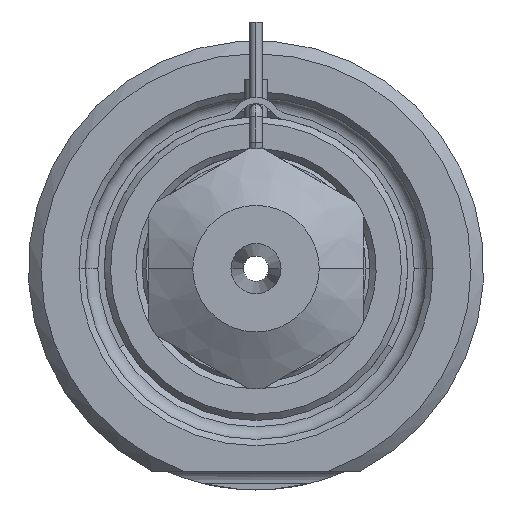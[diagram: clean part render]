
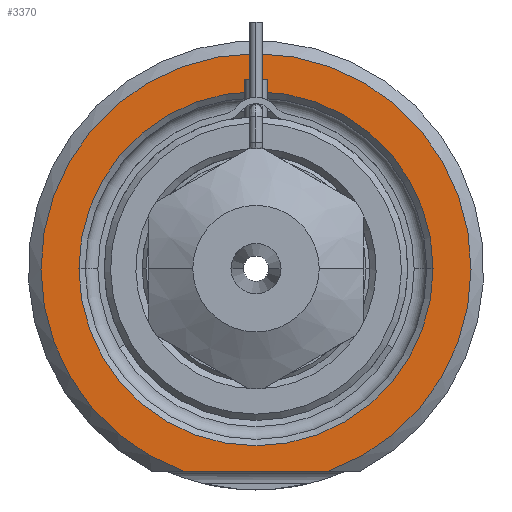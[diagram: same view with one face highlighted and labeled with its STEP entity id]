
A CAD part, front view. The second image highlights one B-rep face of the part: STEP entity #3370.
In plain terms, the highlighted planar face has unit normal (0, -1, 0).
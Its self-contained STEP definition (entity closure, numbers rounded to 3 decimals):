
#678=DIRECTION('',(1.,0.,0.));
#679=VECTOR('',#678,11.489);
#680=CARTESIAN_POINT('',(-5.745,0.,-16.));
#681=LINE('',#680,#679);
#682=CARTESIAN_POINT('',(0.,0.,0.));
#683=DIRECTION('',(0.,1.,0.));
#684=DIRECTION('',(-1.,0.,0.));
#685=AXIS2_PLACEMENT_3D('',#682,#683,#684);
#687=CARTESIAN_POINT('',(0.,0.,0.));
#688=DIRECTION('',(0.,1.,0.));
#689=DIRECTION('',(1.,0.,0.));
#690=AXIS2_PLACEMENT_3D('',#687,#688,#689);
#794=CARTESIAN_POINT('',(0.,0.,0.));
#795=DIRECTION('',(0.,-1.,0.));
#796=DIRECTION('',(0.338,0.,-0.941));
#797=AXIS2_PLACEMENT_3D('',#794,#795,#796);
#2153=CARTESIAN_POINT('',(-14.,0.,0.));
#2154=CARTESIAN_POINT('',(14.,0.,0.));
#2155=VERTEX_POINT('',#2153);
#2156=VERTEX_POINT('',#2154);
#2193=CARTESIAN_POINT('',(-5.745,0.,-16.));
#2194=CARTESIAN_POINT('',(5.745,0.,-16.));
#2195=VERTEX_POINT('',#2193);
#2196=VERTEX_POINT('',#2194);
#3354=CARTESIAN_POINT('',(0.,0.,0.));
#3355=DIRECTION('',(0.,-1.,0.));
#3356=DIRECTION('',(1.,0.,0.));
#3357=AXIS2_PLACEMENT_3D('',#3354,#3355,#3356);
#3358=PLANE('',#3357);
#3360=ORIENTED_EDGE('',*,*,#3359,.F.);
#3362=ORIENTED_EDGE('',*,*,#3361,.F.);
#3363=EDGE_LOOP('',(#3360,#3362));
#3364=FACE_OUTER_BOUND('',#3363,.F.);
#3366=ORIENTED_EDGE('',*,*,#3365,.F.);
#3367=ORIENTED_EDGE('',*,*,#3344,.F.);
#3368=EDGE_LOOP('',(#3366,#3367));
#3369=FACE_BOUND('',#3368,.F.);
#3370=ADVANCED_FACE('',(#3364,#3369),#3358,.T.);
#686=CIRCLE('',#685,14.);
#691=CIRCLE('',#690,14.);
#798=CIRCLE('',#797,17.);
#3344=EDGE_CURVE('',#2156,#2155,#691,.T.);
#3359=EDGE_CURVE('',#2195,#2196,#681,.T.);
#3361=EDGE_CURVE('',#2196,#2195,#798,.T.);
#3365=EDGE_CURVE('',#2155,#2156,#686,.T.);
